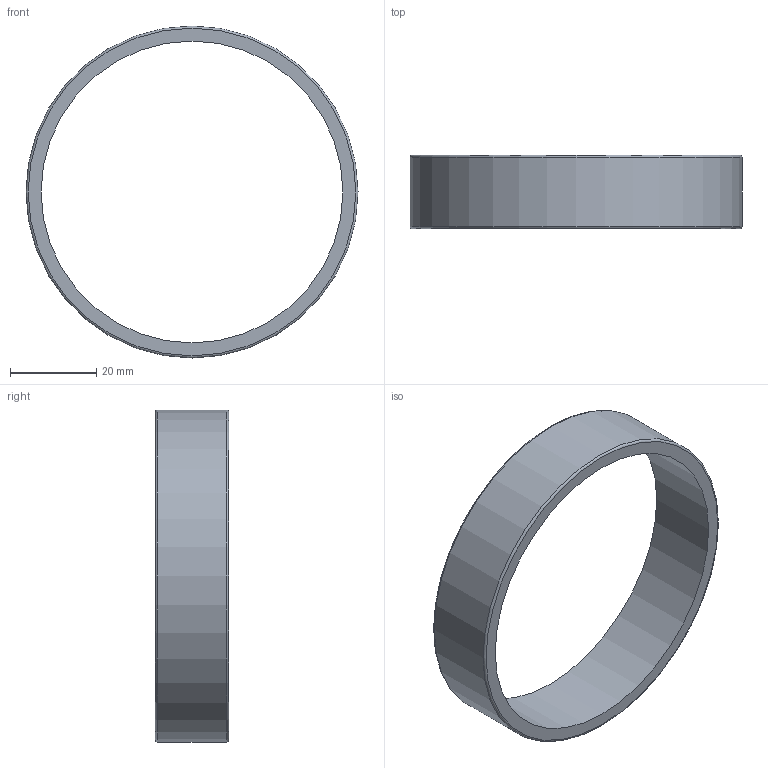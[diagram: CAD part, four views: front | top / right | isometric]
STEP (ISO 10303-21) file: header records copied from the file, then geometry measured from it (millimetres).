
FILE_DESCRIPTION(('STEP AP214'), '1');
FILE_NAME('扻錪犩', '', ('UNSPECIFIED'), ('UNSPECIFIED'), 'C3D Converter', 'C3D Toolkit', '');
FILE_SCHEMA(('AUTOMOTIVE_DESIGN { 1 0 10303 214 3 1 1}'));
Length unit declared in the file: millimetre
Bounding box: 77 x 17 x 77 mm (x, y, z)
Volume: 13713.1 mm3; surface area: 9363.1 mm2
Topology: 1 solids, 1 shells, 6 faces, 10 edges, 6 vertices
Faces by surface type: plane 2, cylinder 2, torus 2
Full cylindrical faces by diameter (mm): 70 x1, 77 x1
Entity records: 216 total; most frequent: DIRECTION 26, CARTESIAN_POINT 19, AXIS2_PLACEMENT_3D 13, EDGE_LOOP 12, ORIENTED_EDGE 12, FACE_OUTER_BOUND 8, COLOUR_RGB 7, FILL_AREA_STYLE_COLOUR 7
